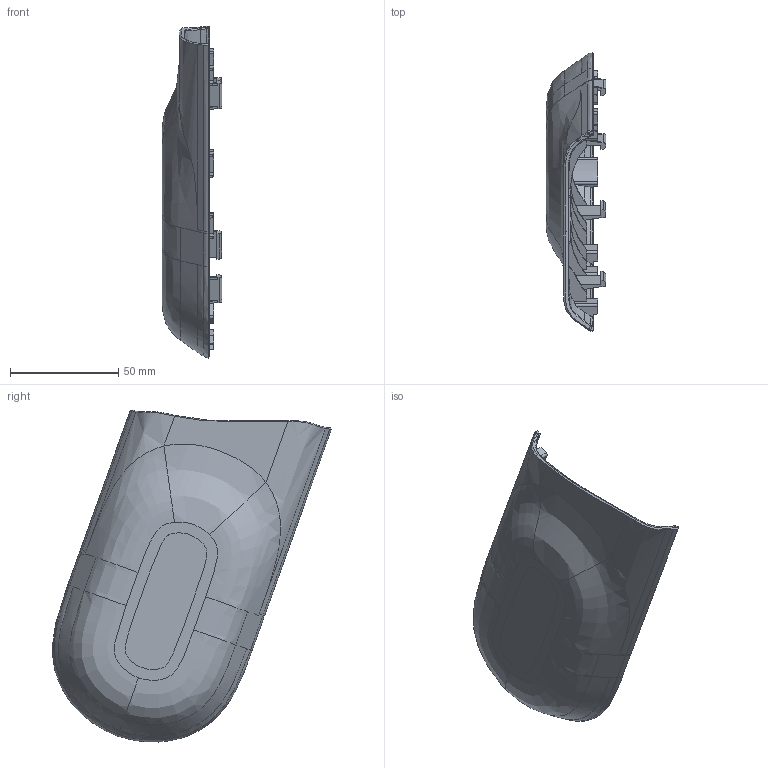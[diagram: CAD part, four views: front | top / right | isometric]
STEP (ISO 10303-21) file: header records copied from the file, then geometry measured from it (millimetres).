
FILE_DESCRIPTION((''),'2;1');
FILE_NAME('YC_SJ_ZS001317_01-0725','2026-03-20T10:43:45',('casson.cai'),(''),'CREO PARAMETRIC BY PTC INC, 2022164','CREO PARAMETRIC BY PTC INC, 2022164','');
FILE_SCHEMA(('CONFIG_CONTROL_DESIGN'));
Products named in the file (1): YC_SJ_ZS001317_01-0725
Bounding box: 27.55 x 128.4 x 153.04 mm (x, y, z)
Volume: 47085.6 mm3; surface area: 47844 mm2
Topology: 1 solids, 1 shells, 501 faces, 1468 edges, 971 vertices
Faces by surface type: plane 262, bspline 120, cylinder 58, extrusion 49, cone 12
Entity records: 43436 total; most frequent: CARTESIAN_POINT 31464, ORIENTED_EDGE 2936, DIRECTION 1739, EDGE_CURVE 1468, VERTEX_POINT 971, VECTOR 845, LINE 796, B_SPLINE_CURVE_WITH_KNOTS 606
